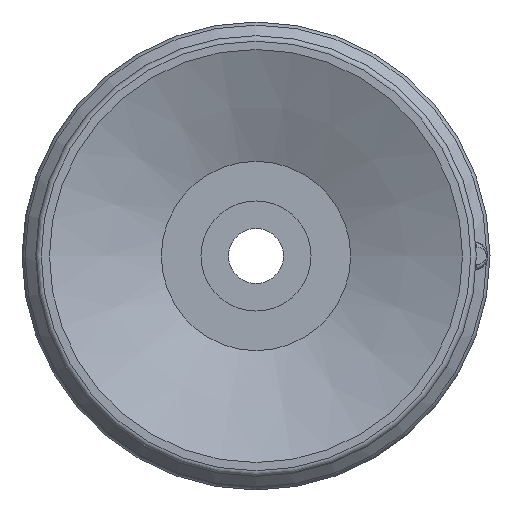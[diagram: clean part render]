
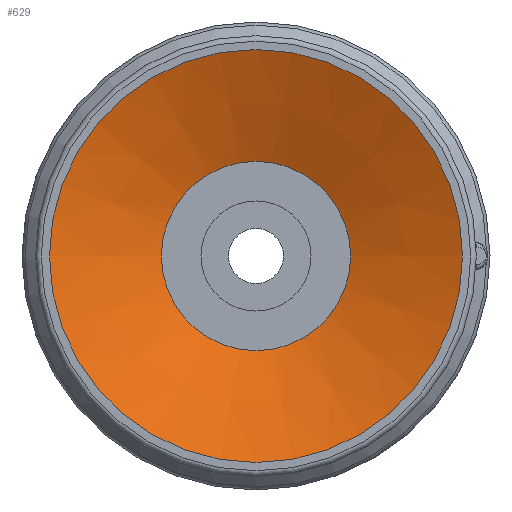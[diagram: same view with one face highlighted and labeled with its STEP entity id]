
A CAD part, front view. The second image highlights one B-rep face of the part: STEP entity #629.
In plain terms, the highlighted conical face has half-angle 67.5 degrees and reference radius 3.437 mm.
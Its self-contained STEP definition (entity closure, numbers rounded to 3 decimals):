
#629=ADVANCED_FACE('',(#873,#874),#875,.F.);
#873=FACE_BOUND('',#2167,.T.);
#874=FACE_OUTER_BOUND('',#2168,.T.);
#875=CONICAL_SURFACE('',#2169,3.437,1.178);
#2167=EDGE_LOOP('',(#2856));
#2168=EDGE_LOOP('',(#2857));
#2169=AXIS2_PLACEMENT_3D('',#2858,#2859,#2860);
#2856=ORIENTED_EDGE('',*,*,#3153,.F.);
#2857=ORIENTED_EDGE('',*,*,#3154,.T.);
#2858=CARTESIAN_POINT('',(0.0,0.0,1.683));
#2859=DIRECTION('',(0.0,0.,-1.0));
#2860=DIRECTION('',(0.0,1.0,0.));
#3153=EDGE_CURVE('',#3488,#3488,#3489,.T.);
#3154=EDGE_CURVE('',#3490,#3490,#3491,.T.);
#3488=VERTEX_POINT('',#4393);
#3489=CIRCLE('',#4394,3.437);
#3490=VERTEX_POINT('',#4395);
#3491=CIRCLE('',#4396,7.5);
#4393=CARTESIAN_POINT('',(-3.437,0.0,1.683));
#4394=AXIS2_PLACEMENT_3D('',#4671,#4672,#4673);
#4395=CARTESIAN_POINT('',(-7.5,0.0,0.));
#4396=AXIS2_PLACEMENT_3D('',#4674,#4675,#4676);
#4671=CARTESIAN_POINT('',(0.0,0.0,1.683));
#4672=DIRECTION('',(0.0,0.,-1.0));
#4673=DIRECTION('',(0.0,1.0,0.));
#4674=CARTESIAN_POINT('',(0.0,0.0,0.));
#4675=DIRECTION('',(0.0,0.,-1.0));
#4676=DIRECTION('',(0.0,1.0,0.));
